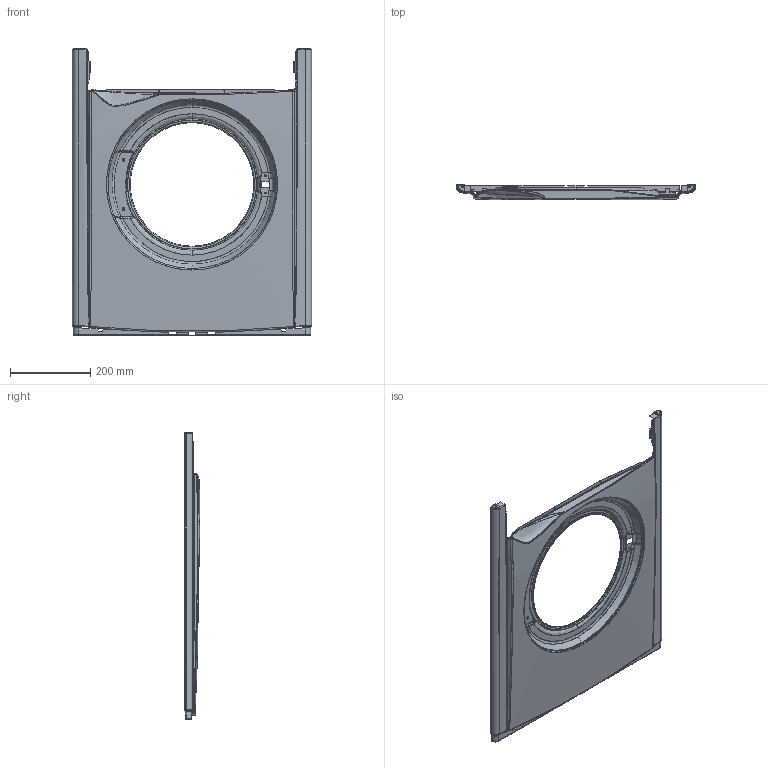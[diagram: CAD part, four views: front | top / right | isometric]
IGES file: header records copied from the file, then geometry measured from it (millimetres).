
Start section: Comment
Global section: file name: 134063193.igs; native system:  By UGS Corp.; preprocessor: XPlus GENERIC/IGES 3.0; author: Author; organization: Title; date: 20080207.153802; units: millimetre
Bounding box: 595 x 38.9 x 713.4 mm (x, y, z)
Surface area: 786355 mm2 (no closed solid volume)
Topology: 0 solids, 0 shells, 988 faces, 5386 edges, 5329 vertices
Faces by surface type: bspline 988
